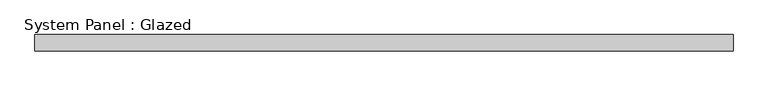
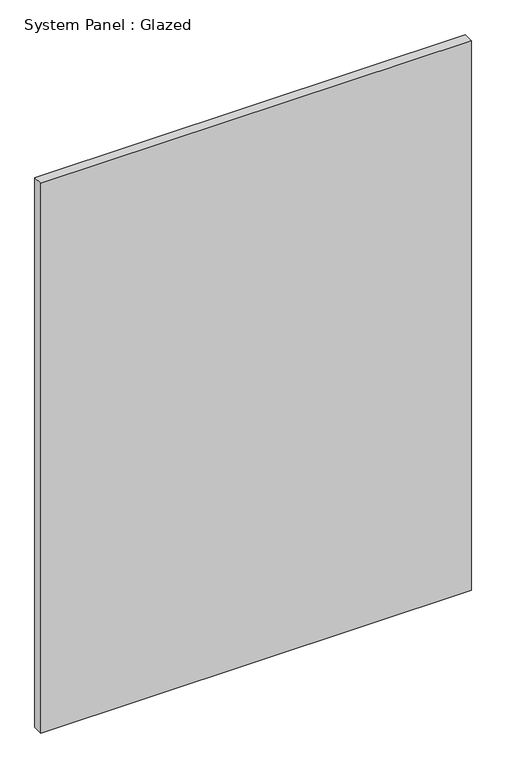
"""IFC4 building model written with IfcOpenShell, lengths in millimetres: plate geometry, System Panel : Glazed."""

import ifcopenshell
import ifcopenshell.guid

model = None  # the IFC model being written
_history = None  # IfcOwnerHistory: only IFC2X3 demands one
_inside = {}  # id of a spatial element -> (the spatial element, [elements in it])
_under = {}  # id of a project, library or spatial element -> (it, [spatial elements below it])
_declared = {}  # id of a project -> (the project, [libraries it declares])
_typed = {}  # id of a type object -> (the type object, [elements of that type])
_made_of = {}  # id of a material, layer set ... -> (it, [elements and type objects made of it])


def new_model(schema):
    """Start an empty IFC model of exactly this schema.

    Asked for "IFC4X3", IfcOpenShell would pick the latest addendum, in which some entities
    have other attributes; the version numbers below select the first issue.
    IFC2X3 requires an IfcOwnerHistory on every rooted entity: one is made here for all.
    """
    global model, _history
    if schema == "IFC4X3":
        model = ifcopenshell.file(schema_version=(4, 3, 0, 0))
    else:
        model = ifcopenshell.file(schema=schema)
    _inside.clear()
    _under.clear()
    _declared.clear()
    _typed.clear()
    _made_of.clear()
    _history = None
    if model.schema == "IFC2X3":
        org = make("IfcOrganization", Name="unknown")
        user = make(
            "IfcPersonAndOrganization",
            ThePerson=make("IfcPerson", FamilyName="unknown"),
            TheOrganization=org,
        )
        app = make(
            "IfcApplication",
            ApplicationDeveloper=org,
            Version="unknown",
            ApplicationFullName="unknown",
            ApplicationIdentifier="unknown",
        )
        _history = make(
            "IfcOwnerHistory",
            OwningUser=user,
            OwningApplication=app,
            ChangeAction="ADDED",
            CreationDate=0,
        )
    return model


def make(cls, **values):
    """One entity of the class cls with the attributes given. An attribute that is None is left unset."""
    return model.create_entity(
        cls, **{name: value for name, value in values.items() if value is not None}
    )


def rooted(cls, **values):
    """An entity with a GlobalId (a new one), such as an element, a storey or a relation."""
    return make(cls, GlobalId=ifcopenshell.guid.new(), OwnerHistory=_history, **values)


def si_unit(unit_type, name, prefix=None):
    """IfcSIUnit, for example si_unit("LENGTHUNIT", "METRE", prefix="MILLI")."""
    return make("IfcSIUnit", UnitType=unit_type, Prefix=prefix, Name=name)


def assignment(units):
    """IfcUnitAssignment: the units of a project."""
    return None if units is None else make("IfcUnitAssignment", Units=units)


def point(xyz):
    """IfcCartesianPoint."""
    return None if xyz is None else make("IfcCartesianPoint", Coordinates=xyz)


def direction(xyz):
    """IfcDirection."""
    return None if xyz is None else make("IfcDirection", DirectionRatios=xyz)


def frame(location, z_axis=None, x_axis=None):
    """IfcAxis2Placement3D, a coordinate frame: its origin and axes. An axis left out is left unset."""
    return make(
        "IfcAxis2Placement3D",
        Location=point(location),
        Axis=direction(z_axis),
        RefDirection=direction(x_axis),
    )


def origin():
    """The frame at (0, 0, 0) with its axes left unset."""
    return frame((0.0, 0.0, 0.0))


def origin_with_axes():
    """The frame at (0, 0, 0) with the z axis (0, 0, 1) and the x axis (1, 0, 0) written out."""
    return frame((0.0, 0.0, 0.0), z_axis=(0.0, 0.0, 1.0), x_axis=(1.0, 0.0, 0.0))


def place(relative_to, where):
    """IfcLocalPlacement: puts the frame where relative to a parent placement (None: the world)."""
    return make(
        "IfcLocalPlacement", PlacementRelTo=relative_to, RelativePlacement=where
    )


def context(
    kind, dimensions, precision=None, world=None, true_north=None, identifier=None
):
    """IfcGeometricRepresentationContext, for example the 3D "Model" context."""
    return make(
        "IfcGeometricRepresentationContext",
        ContextIdentifier=identifier,
        ContextType=kind,
        CoordinateSpaceDimension=dimensions,
        Precision=precision,
        WorldCoordinateSystem=world,
        TrueNorth=true_north,
    )


def project(units=None, contexts=None):
    """IfcProject with its units and contexts."""
    return rooted(
        "IfcProject",
        Name="project",
        RepresentationContexts=contexts,
        UnitsInContext=assignment(units),
    )


def spatial(cls, under=None, at=None, **own):
    """A site, building, storey or space (cls), placed at a placement, below another one or the project."""
    s = rooted(cls, ObjectPlacement=at, **own)
    if under is not None:
        _under.setdefault(under.id(), (under, []))[1].append(s)
    return s


def polyline(points):
    """IfcPolyline through the points."""
    return make("IfcPolyline", Points=[point(p) for p in points])


def outline(outer, holes=None, kind="AREA"):
    """IfcArbitraryClosedProfileDef: a profile drawn as a closed curve; with holes, ...WithVoids."""
    if holes is None:
        return make("IfcArbitraryClosedProfileDef", ProfileType=kind, OuterCurve=outer)
    return make(
        "IfcArbitraryProfileDefWithVoids",
        ProfileType=kind,
        OuterCurve=outer,
        InnerCurves=holes,
    )


def extrude(swept, where, along, depth):
    """IfcExtrudedAreaSolid: the profile swept, set in the frame where, extruded along a direction by depth."""
    return make(
        "IfcExtrudedAreaSolid",
        SweptArea=swept,
        Position=where,
        ExtrudedDirection=direction(along),
        Depth=depth,
    )


def shape(context_of_items, identifier, shape_type, items):
    """IfcShapeRepresentation: the items that make up one representation, for example the "Body"."""
    return make(
        "IfcShapeRepresentation",
        ContextOfItems=context_of_items,
        RepresentationIdentifier=identifier,
        RepresentationType=shape_type,
        Items=items,
    )


def source(mapping_origin, context_of_items, identifier, shape_type, items):
    """IfcRepresentationMap: a shape defined once, which mapped items show again and again."""
    return make(
        "IfcRepresentationMap",
        MappingOrigin=mapping_origin,
        MappedRepresentation=shape(context_of_items, identifier, shape_type, items),
    )


def transform(
    local_origin,
    x_axis=None,
    y_axis=None,
    z_axis=None,
    scale=None,
    scale2=None,
    scale3=None,
    uniform=True,
):
    """IfcCartesianTransformationOperator3D, or its non-uniform kind. x_axis, y_axis, z_axis: its Axis1, 2, 3."""
    if uniform:
        return make(
            "IfcCartesianTransformationOperator3D",
            Axis1=direction(x_axis),
            Axis2=direction(y_axis),
            LocalOrigin=point(local_origin),
            Scale=scale,
            Axis3=direction(z_axis),
        )
    return make(
        "IfcCartesianTransformationOperator3DnonUniform",
        Axis1=direction(x_axis),
        Axis2=direction(y_axis),
        LocalOrigin=point(local_origin),
        Scale=scale,
        Axis3=direction(z_axis),
        Scale2=scale2,
        Scale3=scale3,
    )


def mapped(mapping_source, mapping_target):
    """IfcMappedItem: shows the shape of a source again, moved by a transform."""
    return make(
        "IfcMappedItem", MappingSource=mapping_source, MappingTarget=mapping_target
    )


def made_of(thing, what):
    """Note that an element or type object is made of a material, layer set ...; save() writes the relation."""
    if what is not None:
        _made_of.setdefault(what.id(), (what, []))[1].append(thing)
    return thing


def element(
    cls,
    number,
    at=None,
    inside=None,
    cuts=None,
    type_object=None,
    material=None,
    context=None,
    identifier="Body",
    shape_type=None,
    held_by="IfcProductDefinitionShape",
    body=None,
    shapes=None,
    **own,
):
    """One element of the class cls, such as IfcWall. Its Tag is "e" and its number.

    at: its placement. inside: the storey or other place that contains it. cuts: it is an
    opening in that element (IfcRelVoidsElement). A single representation is given by context,
    identifier, shape_type and body (its items); several are given by shapes. held_by: the class
    of the entity that holds the representations. save() writes the other relations.
    """
    e = rooted(cls, Tag="e%d" % number, ObjectPlacement=at, **own)
    if body is not None:
        shapes = [shape(context, identifier, shape_type, body)]
    if shapes is not None:
        e.Representation = make(held_by, Representations=shapes)
    if inside is not None:
        _inside.setdefault(inside.id(), (inside, []))[1].append(e)
    if cuts is not None:
        rooted(
            "IfcRelVoidsElement", RelatingBuildingElement=cuts, RelatedOpeningElement=e
        )
    if type_object is not None:
        _typed.setdefault(type_object.id(), (type_object, []))[1].append(e)
    return made_of(e, material)


def aggregate(whole, parts):
    """IfcRelAggregates: a whole, such as a stair, and the parts it consists of."""
    return rooted("IfcRelAggregates", RelatingObject=whole, RelatedObjects=parts)


def save(model, path):
    """Write the relations noted so far, then the file.

    IfcRelAggregates (storeys below a building ...), IfcRelContainedInSpatialStructure (elements
    in a storey), IfcRelDefinesByType, IfcRelAssociatesMaterial and IfcRelDeclares: one each for
    every whole, place, type object, material and project.
    """
    for whole, parts in _under.values():
        aggregate(whole, parts)
    for where, things in _inside.values():
        rooted(
            "IfcRelContainedInSpatialStructure",
            RelatedElements=things,
            RelatingStructure=where,
        )
    for kind, things in _typed.values():
        rooted("IfcRelDefinesByType", RelatedObjects=things, RelatingType=kind)
    for what, things in _made_of.values():
        rooted("IfcRelAssociatesMaterial", RelatedObjects=things, RelatingMaterial=what)
    for by, libraries in _declared.values():
        rooted("IfcRelDeclares", RelatingContext=by, RelatedDefinitions=libraries)
    model.write(path)


def system_panel_glazed_85f4c1cb(model_context):
    return source(origin(), model_context, "Body", "SweptSolid", [
        extrude(outline(polyline([(541.3375001, -44.45), (-541.3375001, -44.45), (-541.3375001, -19.05), (541.3375001, -19.05), (541.3375001, -44.45)])), origin_with_axes(), (0.0, 0.0, 1.0), 1460.5),
    ])


if __name__ == "__main__":
    model = new_model("IFC4")
    model_context = context("Model", 3, world=origin())
    ifc_project = project(units=[si_unit("LENGTHUNIT", "METRE", prefix="MILLI")], contexts=[model_context])
    site = spatial("IfcSite", under=ifc_project)
    building = spatial("IfcBuilding", under=site)
    placement = place(None, origin())
    system_panel_glazed_shape = system_panel_glazed_85f4c1cb(model_context)
    element("IfcPlate", 1, ObjectType="System Panel : Glazed", at=placement, inside=building, context=model_context, shape_type="MappedRepresentation", body=[
        mapped(system_panel_glazed_shape, transform((0.0, 0.0, 0.0), x_axis=(1.0, 0.0, 0.0), y_axis=(0.0, 1.0, 0.0), z_axis=(0.0, 0.0, 1.0))),
    ])
    save(model, "model.ifc")
